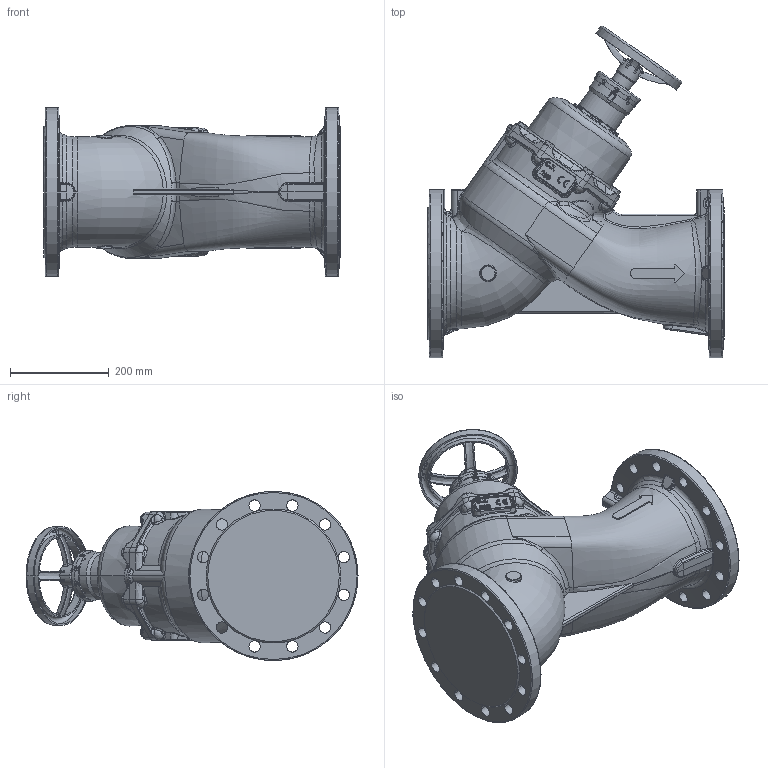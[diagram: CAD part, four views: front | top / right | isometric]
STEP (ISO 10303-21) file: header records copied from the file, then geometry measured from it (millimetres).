
FILE_DESCRIPTION (( 'STEP AP203' ), '1' );
FILE_NAME ('EKOFLUX.S020016P1.STEP', '2022-06-21T14:36:00', ( '' ), ( '' ), 'SwSTEP 2.0', 'SolidWorks 2017', '' );
FILE_SCHEMA (( 'CONFIG_CONTROL_DESIGN' ));
Products named in the file (1): EKOFLUX.S020016P1
Bounding box: 600 x 671.7 x 341.9 mm (x, y, z)
Volume: 35691572.7 mm3; surface area: 1279332.9 mm2
Topology: 1 solids, 29 shells, 2325 faces, 5719 edges, 3418 vertices
Faces by surface type: bspline 753, plane 597, cylinder 504, cone 230, torus 176, sphere 65
Entity records: 141689 total; most frequent: CARTESIAN_POINT 94016, ORIENTED_EDGE 11240, DIRECTION 8009, EDGE_CURVE 5620, VERTEX_POINT 3415, AXIS2_PLACEMENT_3D 3134, EDGE_LOOP 2459, ADVANCED_FACE 2325
